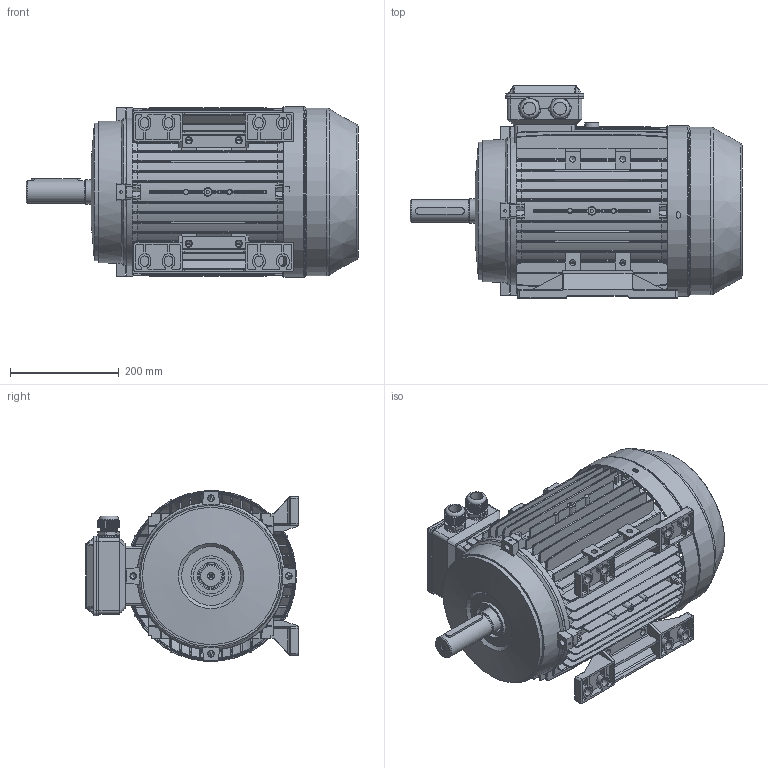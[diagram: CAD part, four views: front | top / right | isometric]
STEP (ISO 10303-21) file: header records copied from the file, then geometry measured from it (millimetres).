
FILE_DESCRIPTION(/* description */ ('STEP AP203'),/* implementation_level */ '2;1');
FILE_NAME(/* name */ 'C:\Vault_Local\Designs\Sermes\UOP2\Bibliotheque\Moteurs\Huifeng\MH3\160\MH3-160_M2_MX2_M4_M6_L6_B3.stp',/* time_stamp */ '2017-02-09T17:40:22+01:00',/* author */ ('herrml'),/* organization */ (''),/* preprocessor_version */ 'ST-DEVELOPER v16.5',/* originating_system */ 'Autodesk Inventor 2017',/* authorisation */ '');
FILE_SCHEMA (('AUTOMOTIVE_DESIGN { 1 0 10303 214 3 1 1 }'));
Length unit declared in the file: millimetre
Products named in the file (9): MH3-160_M2_MX2_M4_M6_L6_B3; M160-Shaft drive end; M160¶Ë¸ÇB3_Post; M160·çÕÖ_136; M32 cable gland; M160»ú¿Ç; M160½ÓÏßºÐ×ù_2Holes; M160½ÓÏßºÐ¸Ç; M160µ×½Å
Assembly tree (10 placements, depth 2):
  MH3-160_M2_MX2_M4_M6_L6_B3
    M160-Shaft drive end
    M160¶Ë¸ÇB3_Post
    M32 cable gland  x2
    M160·çÕÖ_136
    M160»ú¿Ç
    M160½ÓÏßºÐ×ù_2Holes
    M160½ÓÏßºÐ¸Ç
    M160µ×½Å  x2
Bounding box: 609.99 x 390 x 313.98 mm (x, y, z)
Volume: 3954585.7 mm3; surface area: 1961501.7 mm2
Topology: 12 solids, 12 shells, 5640 faces, 16042 edges, 10416 vertices
Faces by surface type: plane 2598, cylinder 2180, bspline 640, cone 171, torus 47, sphere 4
Full cylindrical faces by diameter (mm): 4 x1, 4.2 x1, 5 x15, 6 x4, 6.5 x4, 7 x4, 8 x1, 9 x1, 10 x1, 10.8 x12, 12 x12, 13 x4, 15 x1, 20 x2, 23 x2, 25 x4, 32 x2, 36 x2, 40 x1, 42 x1, 43 x1, 44.5 x1, 45 x1, 50 x1, 65 x1, 74 x1, 86 x1, 100 x1, 252 x1, 260 x1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
Entity records: 264874 total; most frequent: CARTESIAN_POINT 130779, ORIENTED_EDGE 28854, DIRECTION 26893, EDGE_CURVE 14427, VERTEX_POINT 9440, AXIS2_PLACEMENT_3D 9377, LINE 8139, VECTOR 8139
